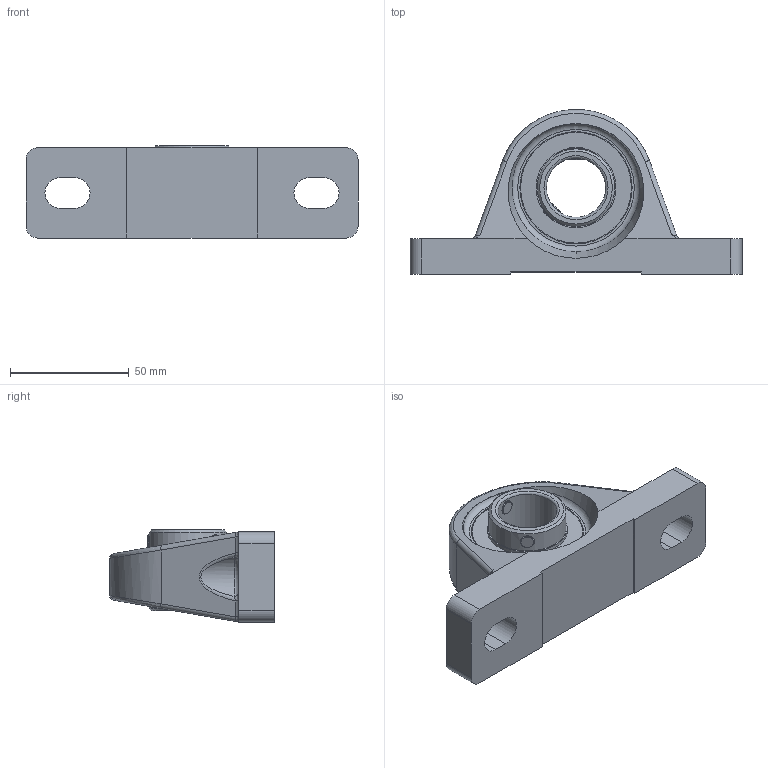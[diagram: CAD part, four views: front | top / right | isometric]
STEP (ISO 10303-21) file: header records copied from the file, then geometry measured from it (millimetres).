
FILE_DESCRIPTION(/* description */ (''),/* implementation_level */ '2;1');
FILE_NAME(/* name */ 'C:\MOJE SUBORY\03_Doplnenie 3D modelov\nove\sgc_hotove\SGC205.stp',/* time_stamp */ '2023-06-29T09:25:57+02:00',/* author */ ('OUPIONTEKM'),/* organization */ (''),/* preprocessor_version */ 'ST-DEVELOPER v19',/* originating_system */ 'Autodesk Inventor 2023',/* authorisation */ '');
FILE_SCHEMA (('AUTOMOTIVE_DESIGN { 1 0 10303 214 3 1 1 }'));
Length unit declared in the file: millimetre
Products named in the file (10): SGC203; sg205; UC205; UC205-02; UC205-ball; UC205-01; UC205-cage; UC205-seal; M6X5; UC205-shield
Assembly tree (20 placements, depth 3):
  SGC203
    sg205
    UC205
      UC205-02
      UC205-ball  x8
      UC205-01
      UC205-cage  x2
      UC205-seal  x2
      M6X5  x2
      UC205-shield  x2
Bounding box: 140 x 69.46 x 38.8 mm (x, y, z)
Volume: 129529.7 mm3; surface area: 50522 mm2
Topology: 19 solids, 19 shells, 199 faces, 614 edges, 402 vertices
Faces by surface type: plane 77, cylinder 49, sphere 43, bspline 12, cone 10, torus 8
Full cylindrical faces by diameter (mm): 1.8 x2, 6 x4, 25 x1, 32.666 x6, 33.666 x2, 36 x2, 41 x2, 44.334 x2, 46.734 x2, 47.334 x4, 53.4 x1
Entity records: 6482 total; most frequent: CARTESIAN_POINT 2228, DIRECTION 888, ORIENTED_EDGE 802, EDGE_CURVE 401, AXIS2_PLACEMENT_3D 394, VERTEX_POINT 274, CIRCLE 213, EDGE_LOOP 167
